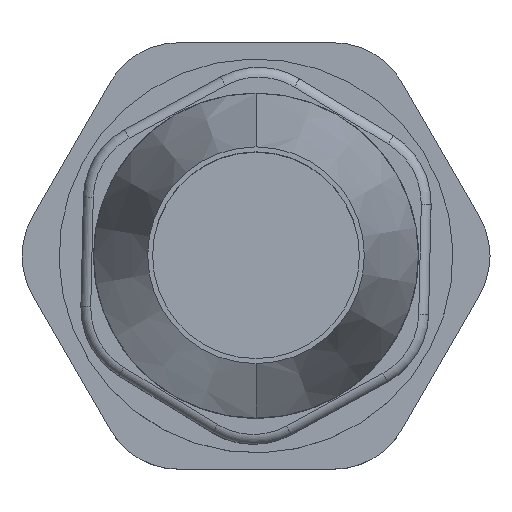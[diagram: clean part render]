
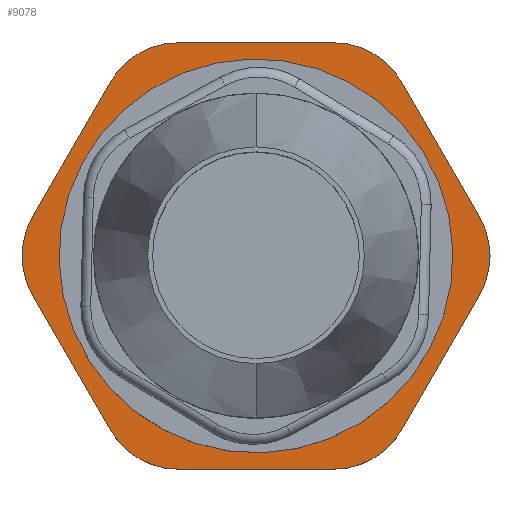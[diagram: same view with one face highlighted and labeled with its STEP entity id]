
A CAD part, top view. The second image highlights one B-rep face of the part: STEP entity #9078.
In plain terms, the highlighted planar face has unit normal (0, 0, 1).
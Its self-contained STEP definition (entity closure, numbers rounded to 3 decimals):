
#1976=CARTESIAN_POINT('',(0.,0.,22.5));
#1977=DIRECTION('',(0.,0.,1.));
#1978=DIRECTION('',(1.,0.,0.));
#1979=AXIS2_PLACEMENT_3D('',#1976,#1977,#1978);
#1981=CARTESIAN_POINT('',(0.,0.,22.5));
#1982=DIRECTION('',(0.,0.,1.));
#1983=DIRECTION('',(-1.,0.,0.));
#1984=AXIS2_PLACEMENT_3D('',#1981,#1982,#1983);
#1986=CARTESIAN_POINT('',(7.881,-13.651,22.5));
#1987=DIRECTION('',(0.,0.,1.));
#1988=DIRECTION('',(0.,-1.,0.));
#1989=AXIS2_PLACEMENT_3D('',#1986,#1987,#1988);
#1991=DIRECTION('',(1.,0.,0.));
#1992=VECTOR('',#1991,15.762);
#1993=CARTESIAN_POINT('',(-7.881,-21.651,22.5));
#1994=LINE('',#1993,#1992);
#1995=CARTESIAN_POINT('',(-7.881,-13.651,22.5));
#1996=DIRECTION('',(0.,0.,1.));
#1997=DIRECTION('',(-0.866,-0.5,0.));
#1998=AXIS2_PLACEMENT_3D('',#1995,#1996,#1997);
#2000=DIRECTION('',(0.5,-0.866,0.));
#2001=VECTOR('',#2000,15.762);
#2002=CARTESIAN_POINT('',(-22.691,-4.,22.5));
#2003=LINE('',#2002,#2001);
#2004=CARTESIAN_POINT('',(-15.762,0.,22.5));
#2005=DIRECTION('',(0.,0.,1.));
#2006=DIRECTION('',(-0.866,0.5,0.));
#2007=AXIS2_PLACEMENT_3D('',#2004,#2005,#2006);
#2009=DIRECTION('',(-0.5,-0.866,0.));
#2010=VECTOR('',#2009,15.762);
#2011=CARTESIAN_POINT('',(-14.809,17.651,22.5));
#2012=LINE('',#2011,#2010);
#2013=CARTESIAN_POINT('',(-7.881,13.651,22.5));
#2014=DIRECTION('',(0.,0.,1.));
#2015=DIRECTION('',(0.,1.,0.));
#2016=AXIS2_PLACEMENT_3D('',#2013,#2014,#2015);
#2018=DIRECTION('',(-1.,0.,0.));
#2019=VECTOR('',#2018,15.762);
#2020=CARTESIAN_POINT('',(7.881,21.651,22.5));
#2021=LINE('',#2020,#2019);
#2022=CARTESIAN_POINT('',(7.881,13.651,22.5));
#2023=DIRECTION('',(0.,0.,1.));
#2024=DIRECTION('',(0.866,0.5,0.));
#2025=AXIS2_PLACEMENT_3D('',#2022,#2023,#2024);
#2027=DIRECTION('',(-0.5,0.866,0.));
#2028=VECTOR('',#2027,15.762);
#2029=CARTESIAN_POINT('',(22.691,4.,22.5));
#2030=LINE('',#2029,#2028);
#2031=CARTESIAN_POINT('',(15.762,0.,22.5));
#2032=DIRECTION('',(0.,0.,1.));
#2033=DIRECTION('',(0.866,-0.5,0.));
#2034=AXIS2_PLACEMENT_3D('',#2031,#2032,#2033);
#2036=DIRECTION('',(0.5,0.866,0.));
#2037=VECTOR('',#2036,15.762);
#2038=CARTESIAN_POINT('',(14.809,-17.651,22.5));
#2039=LINE('',#2038,#2037);
#6906=CARTESIAN_POINT('',(16.5,0.,22.5));
#6907=CARTESIAN_POINT('',(-16.5,0.,22.5));
#6908=VERTEX_POINT('',#6906);
#6909=VERTEX_POINT('',#6907);
#6974=CARTESIAN_POINT('',(7.881,-21.651,22.5));
#6975=VERTEX_POINT('',#6974);
#6976=CARTESIAN_POINT('',(14.809,-17.651,22.5));
#6977=VERTEX_POINT('',#6976);
#6982=CARTESIAN_POINT('',(22.691,-4.,22.5));
#6983=VERTEX_POINT('',#6982);
#6984=CARTESIAN_POINT('',(22.691,4.,22.5));
#6985=VERTEX_POINT('',#6984);
#6990=CARTESIAN_POINT('',(14.809,17.651,22.5));
#6991=VERTEX_POINT('',#6990);
#6992=CARTESIAN_POINT('',(7.881,21.651,22.5));
#6993=VERTEX_POINT('',#6992);
#6998=CARTESIAN_POINT('',(-7.881,21.651,22.5));
#6999=VERTEX_POINT('',#6998);
#7000=CARTESIAN_POINT('',(-14.809,17.651,22.5));
#7001=VERTEX_POINT('',#7000);
#7006=CARTESIAN_POINT('',(-22.691,4.,22.5));
#7007=VERTEX_POINT('',#7006);
#7008=CARTESIAN_POINT('',(-22.691,-4.,22.5));
#7009=VERTEX_POINT('',#7008);
#7014=CARTESIAN_POINT('',(-14.809,-17.651,22.5));
#7015=VERTEX_POINT('',#7014);
#7016=CARTESIAN_POINT('',(-7.881,-21.651,22.5));
#7017=VERTEX_POINT('',#7016);
#9053=CARTESIAN_POINT('',(0.,0.,22.5));
#9054=DIRECTION('',(0.,0.,1.));
#9055=DIRECTION('',(1.,0.,0.));
#9056=AXIS2_PLACEMENT_3D('',#9053,#9054,#9055);
#9057=PLANE('',#9056);
#9058=ORIENTED_EDGE('',*,*,#8893,.F.);
#9059=ORIENTED_EDGE('',*,*,#8909,.F.);
#9060=ORIENTED_EDGE('',*,*,#8922,.F.);
#9061=ORIENTED_EDGE('',*,*,#8935,.F.);
#9062=ORIENTED_EDGE('',*,*,#8950,.F.);
#9063=ORIENTED_EDGE('',*,*,#8963,.F.);
#9064=ORIENTED_EDGE('',*,*,#8978,.F.);
#9065=ORIENTED_EDGE('',*,*,#8991,.F.);
#9066=ORIENTED_EDGE('',*,*,#9006,.F.);
#9067=ORIENTED_EDGE('',*,*,#9019,.F.);
#9068=ORIENTED_EDGE('',*,*,#9034,.F.);
#9069=ORIENTED_EDGE('',*,*,#9046,.F.);
#9070=EDGE_LOOP('',(#9058,#9059,#9060,#9061,#9062,#9063,#9064,#9065,#9066,#9067,
#9068,#9069));
#9071=FACE_OUTER_BOUND('',#9070,.F.);
#9073=ORIENTED_EDGE('',*,*,#9072,.T.);
#9075=ORIENTED_EDGE('',*,*,#9074,.T.);
#9076=EDGE_LOOP('',(#9073,#9075));
#9077=FACE_BOUND('',#9076,.F.);
#9078=ADVANCED_FACE('',(#9071,#9077),#9057,.T.);
#1980=CIRCLE('',#1979,16.5);
#1985=CIRCLE('',#1984,16.5);
#1990=CIRCLE('',#1989,8.);
#1999=CIRCLE('',#1998,8.);
#2008=CIRCLE('',#2007,8.);
#2017=CIRCLE('',#2016,8.);
#2026=CIRCLE('',#2025,8.);
#2035=CIRCLE('',#2034,8.);
#8893=EDGE_CURVE('',#6975,#6977,#1990,.T.);
#8909=EDGE_CURVE('',#7017,#6975,#1994,.T.);
#8922=EDGE_CURVE('',#7015,#7017,#1999,.T.);
#8935=EDGE_CURVE('',#7009,#7015,#2003,.T.);
#8950=EDGE_CURVE('',#7007,#7009,#2008,.T.);
#8963=EDGE_CURVE('',#7001,#7007,#2012,.T.);
#8978=EDGE_CURVE('',#6999,#7001,#2017,.T.);
#8991=EDGE_CURVE('',#6993,#6999,#2021,.T.);
#9006=EDGE_CURVE('',#6991,#6993,#2026,.T.);
#9019=EDGE_CURVE('',#6985,#6991,#2030,.T.);
#9034=EDGE_CURVE('',#6983,#6985,#2035,.T.);
#9046=EDGE_CURVE('',#6977,#6983,#2039,.T.);
#9072=EDGE_CURVE('',#6908,#6909,#1980,.T.);
#9074=EDGE_CURVE('',#6909,#6908,#1985,.T.);
